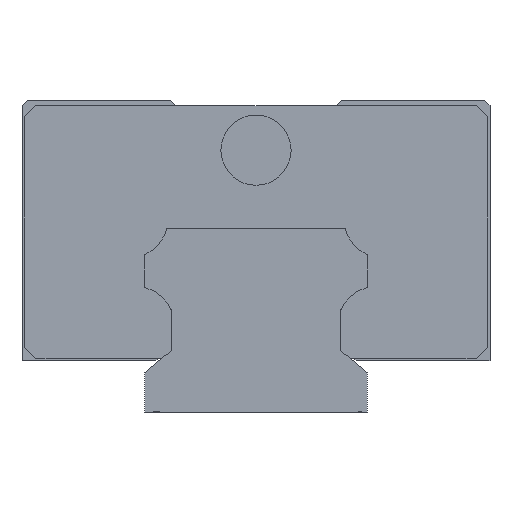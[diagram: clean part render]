
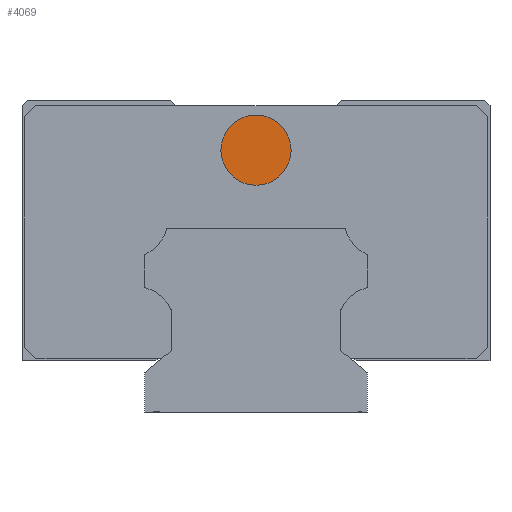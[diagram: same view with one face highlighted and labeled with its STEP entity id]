
A CAD part, left-side view. The second image highlights one B-rep face of the part: STEP entity #4069.
In plain terms, the highlighted planar face has unit normal (-1, 0, 0).
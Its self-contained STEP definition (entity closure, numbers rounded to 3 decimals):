
#41 = EDGE_CURVE ( 'NONE', #973, #5055, #2574, .T. ) ;
#133 = FACE_OUTER_BOUND ( 'NONE', #5252, .T. ) ;
#207 = AXIS2_PLACEMENT_3D ( 'NONE', #1871, #1078, #1436 ) ;
#490 = EDGE_CURVE ( 'NONE', #5055, #973, #2687, .T. ) ;
#973 = VERTEX_POINT ( 'NONE', #2901 ) ;
#1000 = AXIS2_PLACEMENT_3D ( 'NONE', #5309, #5365, #2842 ) ;
#1078 = DIRECTION ( 'NONE',  ( 1., 0., 0. ) ) ;
#1312 = CARTESIAN_POINT ( 'NONE',  ( -13.9, 0., 26.65 ) ) ;
#1436 = DIRECTION ( 'NONE',  ( 0., 0., -1. ) ) ;
#1557 = PLANE ( 'NONE',  #3857 ) ;
#1792 = ORIENTED_EDGE ( 'NONE', *, *, #41, .F. ) ;
#1844 = CARTESIAN_POINT ( 'NONE',  ( -13.9, 0., 23.5 ) ) ;
#1871 = CARTESIAN_POINT ( 'NONE',  ( -13.9, 0., 23.5 ) ) ;
#2574 = CIRCLE ( 'NONE', #207, 3.15 ) ;
#2687 = CIRCLE ( 'NONE', #1000, 3.15 ) ;
#2830 = DIRECTION ( 'NONE',  ( 0., 0., -1. ) ) ;
#2842 = DIRECTION ( 'NONE',  ( 0., 0., -1. ) ) ;
#2901 = CARTESIAN_POINT ( 'NONE',  ( -13.9, 0., 20.35 ) ) ;
#3220 = DIRECTION ( 'NONE',  ( -1., 0., 0. ) ) ;
#3857 = AXIS2_PLACEMENT_3D ( 'NONE', #1844, #3220, #2830 ) ;
#3972 = ORIENTED_EDGE ( 'NONE', *, *, #490, .F. ) ;
#4069 = ADVANCED_FACE ( 'NONE', ( #133 ), #1557, .T. ) ;
#5055 = VERTEX_POINT ( 'NONE', #1312 ) ;
#5252 = EDGE_LOOP ( 'NONE', ( #3972, #1792 ) ) ;
#5309 = CARTESIAN_POINT ( 'NONE',  ( -13.9, 0., 23.5 ) ) ;
#5365 = DIRECTION ( 'NONE',  ( 1., 0., 0. ) ) ;
